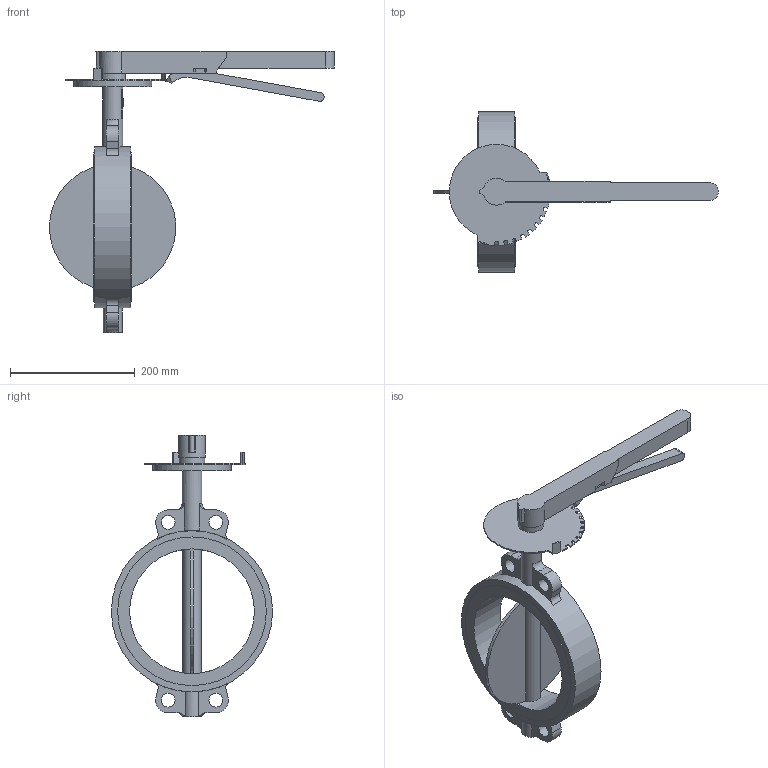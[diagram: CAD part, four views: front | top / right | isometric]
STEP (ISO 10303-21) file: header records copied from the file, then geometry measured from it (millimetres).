
FILE_DESCRIPTION(('STEP AP203'), '1');
FILE_NAME('Çàòâîð 017W.Y_DN200_PN16_ðóêîÿòü', '', ('UNSPECIFIED'), ('UNSPECIFIED'), 'ASCON STEP Converter 1.6', 'ASCON Math Kernel', '');
FILE_SCHEMA(('CONFIG_CONTROL_DESIGN'));
Length unit declared in the file: millimetre
Bounding box: 455.86 x 258.2 x 451 mm (x, y, z)
Volume: 2314495.1 mm3; surface area: 334964.2 mm2
Topology: 1 solids, 1 shells, 198 faces, 537 edges, 354 vertices
Faces by surface type: plane 110, cylinder 84, torus 4
Full cylindrical faces by diameter (mm): 12 x4, 22 x4, 32 x1, 41 x1, 125 x1, 200 x1, 238.2 x2, 258.2 x1
Entity records: 9011 total; most frequent: CARTESIAN_POINT 2285, DIRECTION 1084, ORIENTED_EDGE 1044, EDGE_CURVE 522, AXIS2_PLACEMENT_3D 385, VERTEX_POINT 354, LINE 314, VECTOR 314
